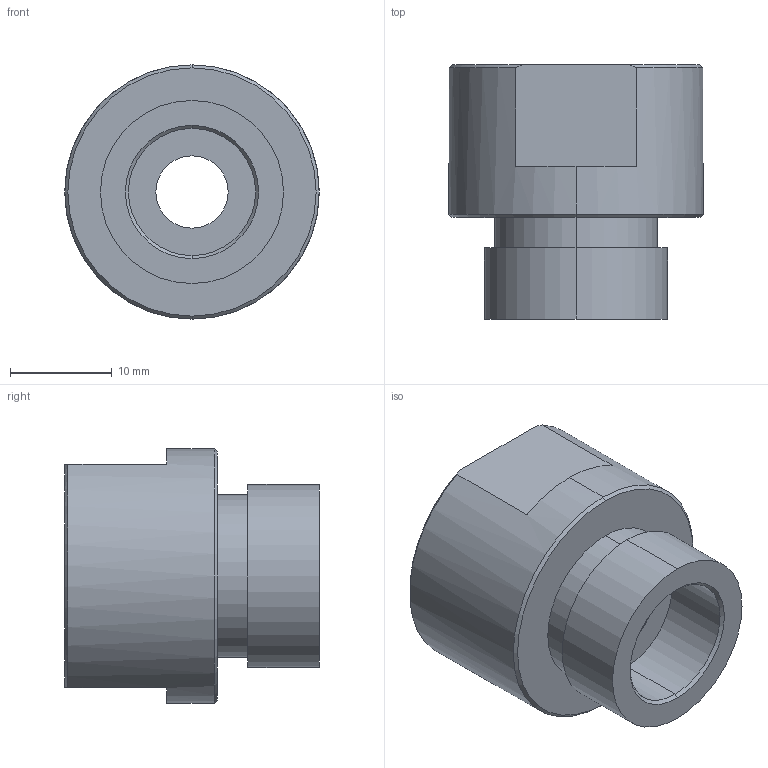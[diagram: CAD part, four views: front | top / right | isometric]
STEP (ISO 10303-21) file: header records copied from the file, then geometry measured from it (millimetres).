
FILE_DESCRIPTION (( 'STEP AP203' ), '1' );
FILE_NAME ('125MO-7.1.STEP', '2022-04-13T07:06:09', ( '' ), ( '' ), 'SwSTEP 2.0', 'SolidWorks 2015', '' );
FILE_SCHEMA (( 'CONFIG_CONTROL_DESIGN' ));
Length unit declared in the file: millimetre
Products named in the file (2): 125MO-7.1
Bounding box: 25 x 25 x 25 mm (x, y, z)
Volume: 7927.7 mm3; surface area: 3370 mm2
Topology: 1 solids, 1 shells, 25 faces, 56 edges, 36 vertices
Faces by surface type: cylinder 10, plane 9, cone 6
Entity records: 871 total; most frequent: DIRECTION 136, CARTESIAN_POINT 131, ORIENTED_EDGE 112, AXIS2_PLACEMENT_3D 57, EDGE_CURVE 56, VERTEX_POINT 36, CIRCLE 30, EDGE_LOOP 30
